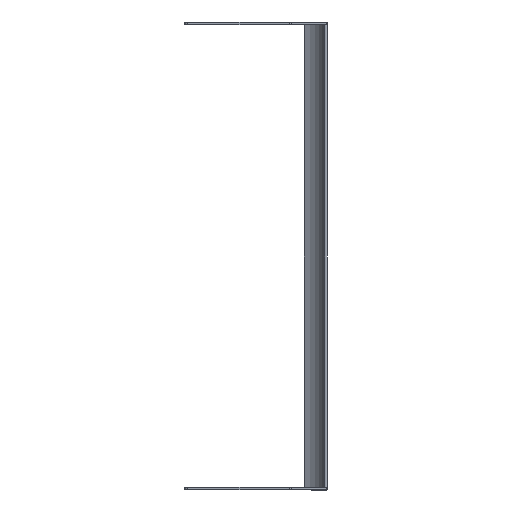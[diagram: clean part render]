
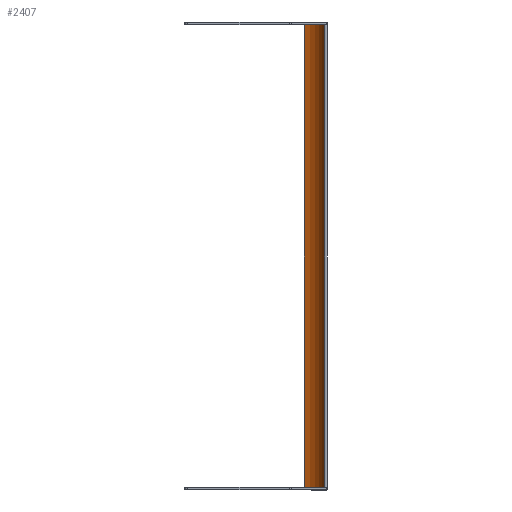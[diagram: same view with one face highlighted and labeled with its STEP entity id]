
A CAD part, front view. The second image highlights one B-rep face of the part: STEP entity #2407.
In plain terms, the highlighted cylindrical face has radius 40.64 mm (diameter 81.28 mm), a partial arc.
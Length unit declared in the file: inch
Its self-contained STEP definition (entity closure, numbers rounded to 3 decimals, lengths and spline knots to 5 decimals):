
#2114=CARTESIAN_POINT('',(-1.52,1.63,-10.118));
#2115=DIRECTION('',(0.,0.,-1.));
#2116=DIRECTION('',(0.914,-0.405,0.));
#2117=AXIS2_PLACEMENT_3D('',#2114,#2115,#2116);
#2161=CARTESIAN_POINT('',(-1.52,1.63,10.118));
#2162=DIRECTION('',(0.,0.,-1.));
#2163=DIRECTION('',(0.914,-0.405,0.));
#2164=AXIS2_PLACEMENT_3D('',#2161,#2162,#2163);
#2192=DIRECTION('',(0.,0.,1.));
#2193=VECTOR('',#2192,20.236);
#2194=CARTESIAN_POINT('',(-1.00032,0.11675,-10.118));
#2195=LINE('',#2194,#2193);
#2196=DIRECTION('',(0.,0.,1.));
#2197=VECTOR('',#2196,20.236);
#2198=CARTESIAN_POINT('',(-0.05742,0.98126,-10.118));
#2199=LINE('',#2198,#2197);
#2228=CARTESIAN_POINT('',(-0.05742,0.98126,-10.118));
#2229=VERTEX_POINT('',#2228);
#2230=CARTESIAN_POINT('',(-1.00032,0.11675,-10.118));
#2231=VERTEX_POINT('',#2230);
#2248=CARTESIAN_POINT('',(-0.05742,0.98126,10.118));
#2249=VERTEX_POINT('',#2248);
#2250=CARTESIAN_POINT('',(-1.00032,0.11675,10.118));
#2251=VERTEX_POINT('',#2250);
#2395=CARTESIAN_POINT('',(-1.52,1.63,-10.118));
#2396=DIRECTION('',(0.,0.,1.));
#2397=DIRECTION('',(1.,0.,0.));
#2398=AXIS2_PLACEMENT_3D('',#2395,#2396,#2397);
#2399=CYLINDRICAL_SURFACE('',#2398,1.6);
#2400=ORIENTED_EDGE('',*,*,#2265,.F.);
#2402=ORIENTED_EDGE('',*,*,#2401,.T.);
#2403=ORIENTED_EDGE('',*,*,#2321,.T.);
#2404=ORIENTED_EDGE('',*,*,#2388,.F.);
#2405=EDGE_LOOP('',(#2400,#2402,#2403,#2404));
#2406=FACE_OUTER_BOUND('',#2405,.F.);
#2118=CIRCLE('',#2117,1.6);
#2165=CIRCLE('',#2164,1.6);
#2265=EDGE_CURVE('',#2229,#2231,#2118,.T.);
#2321=EDGE_CURVE('',#2249,#2251,#2165,.T.);
#2388=EDGE_CURVE('',#2231,#2251,#2195,.T.);
#2401=EDGE_CURVE('',#2229,#2249,#2199,.T.);
#2407=ADVANCED_FACE('',(#2406),#2399,.F.);
